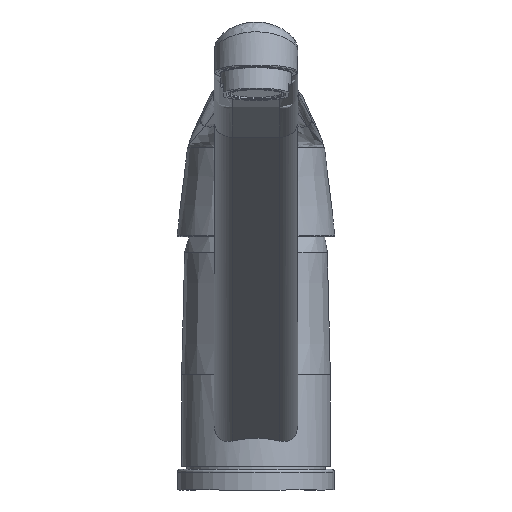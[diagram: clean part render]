
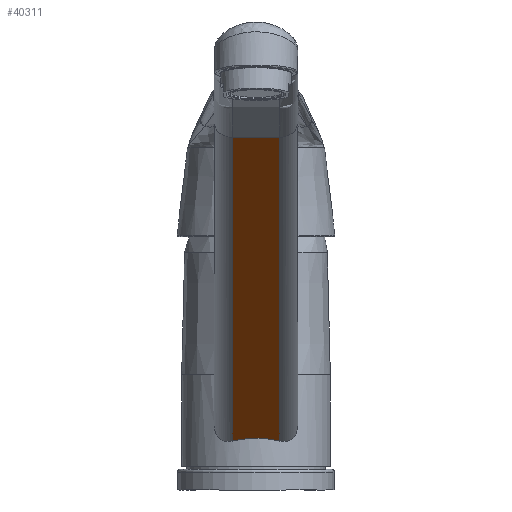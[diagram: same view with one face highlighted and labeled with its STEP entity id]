
A CAD part, front view. The second image highlights one B-rep face of the part: STEP entity #40311.
In plain terms, the highlighted planar face has unit normal (0, -0.574, -0.819) as drawn and (0, -0.574, 0.819) by its records, which use the part's own axes.
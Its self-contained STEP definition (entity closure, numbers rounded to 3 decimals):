
#136=ELLIPSE($,#42792,30.519,25.);
#1116=LINE($,#57077,#5579);
#1124=LINE($,#57318,#5587);
#1125=LINE($,#57321,#5588);
#5579=VECTOR($,#46040,16.);
#5587=VECTOR($,#46106,177.864);
#5588=VECTOR($,#46109,177.864);
#10475=PLANE($,#42791);
#12541=FACE_OUTER_BOUND($,#14942,.T.);
#14942=EDGE_LOOP($,(#28478,#28479,#28480,#28481));
#18227=VERTEX_POINT($,#57035);
#18230=VERTEX_POINT($,#57043);
#18260=VERTEX_POINT($,#57317);
#18261=VERTEX_POINT($,#57319);
#22225=EDGE_CURVE($,#18227,#18230,#1116,.T.);
#22262=EDGE_CURVE($,#18260,#18230,#1124,.T.);
#22263=EDGE_CURVE($,#18261,#18260,#136,.T.);
#22264=EDGE_CURVE($,#18261,#18227,#1125,.T.);
#28478=ORIENTED_EDGE($,*,*,#22262,.F.);
#28479=ORIENTED_EDGE($,*,*,#22263,.F.);
#28480=ORIENTED_EDGE($,*,*,#22264,.T.);
#28481=ORIENTED_EDGE($,*,*,#22225,.T.);
#40311=ADVANCED_FACE($,(#12541),#10475,.T.);
#42791=AXIS2_PLACEMENT_3D($,#57316,#46104,#46105);
#42792=AXIS2_PLACEMENT_3D($,#57320,#46107,#46108);
#46040=DIRECTION($,(1.,0.,0.));
#46104=DIRECTION('center_axis',(0.,-0.574,0.819));
#46105=DIRECTION('ref_axis',(1.,0.,0.));
#46106=DIRECTION($,(0.,-0.819,-0.574));
#46107=DIRECTION('center_axis',(0.,-0.574,0.819));
#46108=DIRECTION('ref_axis',(0.,-0.819,-0.574));
#46109=DIRECTION($,(0.,-0.819,-0.574));
#57035=CARTESIAN_POINT('',(-8.,-169.383,-95.174));
#57043=CARTESIAN_POINT('',(8.,-169.383,-95.174));
#57077=CARTESIAN_POINT($,(-8.,-169.383,-95.174));
#57316=CARTESIAN_POINT('Origin',(-8.,-20.441,9.117));
#57317=CARTESIAN_POINT('',(8.,-23.685,6.845));
#57318=CARTESIAN_POINT($,(8.,-20.441,9.117));
#57319=CARTESIAN_POINT('',(-8.,-23.685,6.845));
#57320=CARTESIAN_POINT('Origin',(0.,0.,23.429));
#57321=CARTESIAN_POINT($,(-8.,-20.441,9.117));
